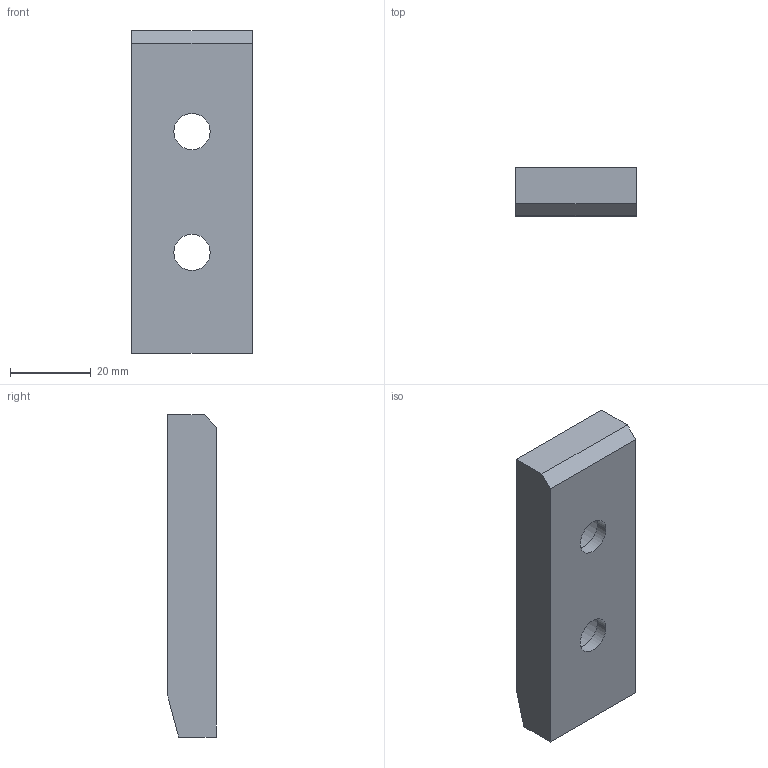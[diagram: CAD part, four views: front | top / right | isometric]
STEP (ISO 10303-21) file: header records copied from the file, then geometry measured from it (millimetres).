
FILE_DESCRIPTION (( 'STEP AP214' ), '1' );
FILE_NAME ('SW222-01-30x80.STEP', '2020-10-14T12:25:24', ( 'August' ), ( '' ), 'SwSTEP 2.0', 'SolidWorks 2018', '' );
FILE_SCHEMA (( 'AUTOMOTIVE_DESIGN' ));
Length unit declared in the file: millimetre
Products named in the file (1): SW222-01-30x80
Bounding box: 30 x 12 x 80 mm (x, y, z)
Volume: 22209.8 mm3; surface area: 10495.9 mm2
Topology: 1 solids, 1 shells, 110 faces, 227 edges, 150 vertices
Faces by surface type: cylinder 67, plane 39, cone 4
Entity records: 3621 total; most frequent: CARTESIAN_POINT 1219, DIRECTION 501, ORIENTED_EDGE 454, EDGE_CURVE 227, AXIS2_PLACEMENT_3D 206, VERTEX_POINT 150, EDGE_LOOP 145, FACE_OUTER_BOUND 110
